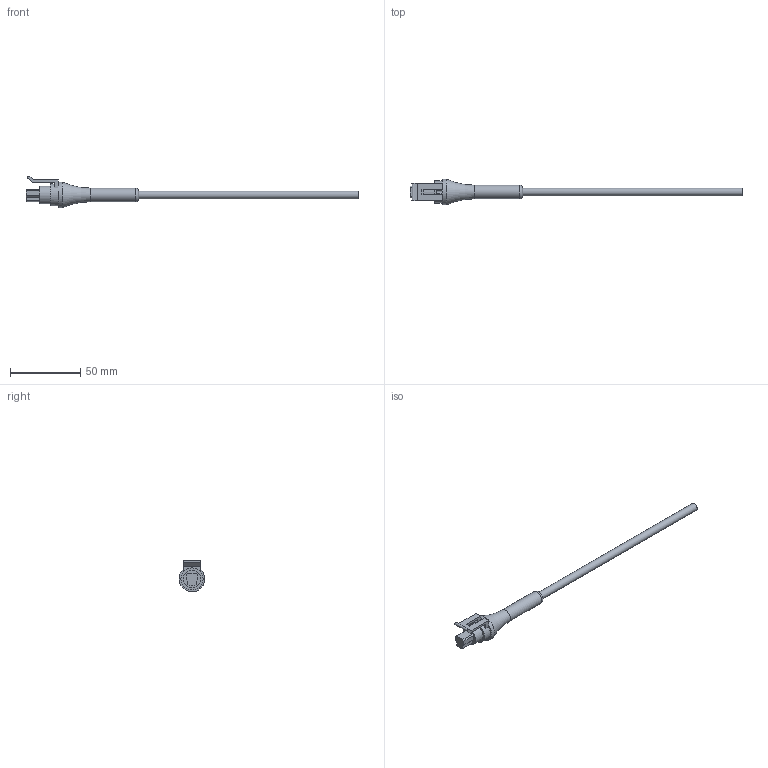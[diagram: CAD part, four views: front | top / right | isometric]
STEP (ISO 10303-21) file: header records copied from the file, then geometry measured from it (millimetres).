
FILE_DESCRIPTION(/* description */ (''),/* implementation_level */ '2;1');
FILE_NAME(/* name */ 'PACK-CON.stp',/* time_stamp */ '2023-04-21T11:21:17-04:00',/* author */ ('imitchell'),/* organization */ ('unknown'),/* preprocessor_version */ 'ST-DEVELOPER v19.2',/* originating_system */ 'Autodesk Inventor 2023',/* authorisation */ '');
FILE_SCHEMA (('AUTOMOTIVE_DESIGN { 1 0 10303 214 3 1 1 }'));
Length unit declared in the file: inch
Products named in the file (1): PACK-CON
Bounding box: 236.17 x 18.16 x 22.33 mm (x, y, z)
Volume: 12443.5 mm3; surface area: 6832.4 mm2
Topology: 1 solids, 1 shells, 43 faces, 119 edges, 78 vertices
Faces by surface type: plane 31, cylinder 10, torus 2
Full cylindrical faces by diameter (mm): 5.461 x2, 9.652 x1, 12.446 x1, 15.494 x1, 15.684 x1, 18.161 x1
Entity records: 1443 total; most frequent: DIRECTION 247, CARTESIAN_POINT 241, ORIENTED_EDGE 238, EDGE_CURVE 119, AXIS2_PLACEMENT_3D 84, LINE 79, VECTOR 79, VERTEX_POINT 78
